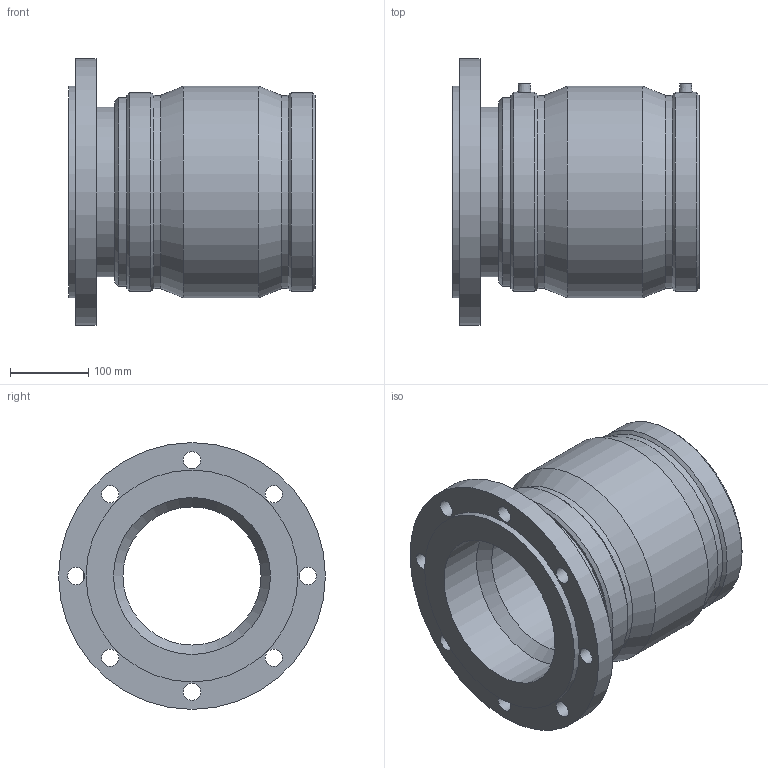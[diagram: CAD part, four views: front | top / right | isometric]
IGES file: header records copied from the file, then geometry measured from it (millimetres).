
Global section: file name: 497704225.ipt; native system: Autodesk Inventor 2015; preprocessor: unknown; author: KIM; date: 20180502.162031; units: millimetre
Bounding box: 314 x 340 x 340 mm (x, y, z)
Volume: 7213250.9 mm3; surface area: 640556.1 mm2
Topology: 1 solids, 2 shells, 55 faces, 121 edges, 80 vertices
Faces by surface type: revolution 17, plane 16, cylinder 13, cone 9
Full cylindrical faces by diameter (mm): 4 x2, 216.27 x1, 225 x2, 240.3 x1, 246.186 x2, 253.8 x2, 270 x2, 340 x1
